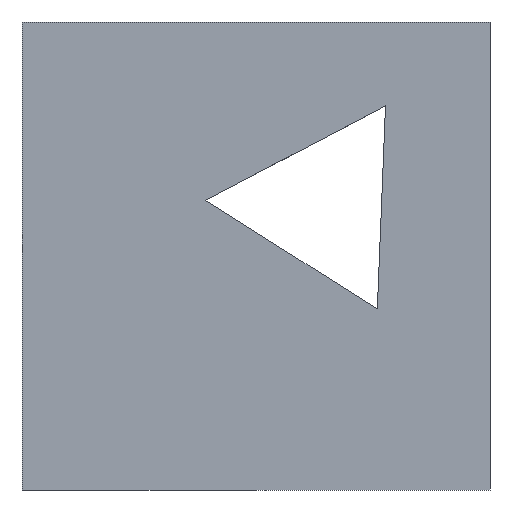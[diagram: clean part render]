
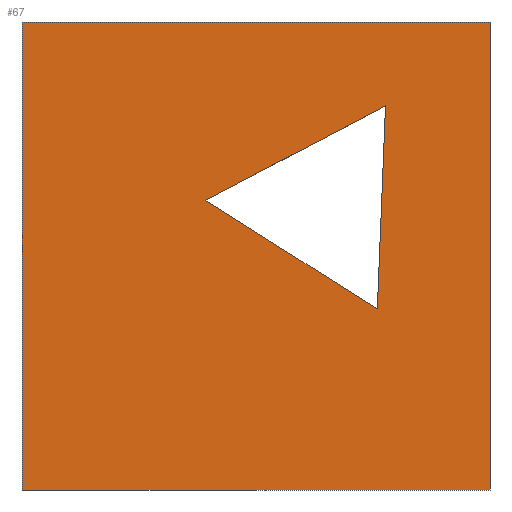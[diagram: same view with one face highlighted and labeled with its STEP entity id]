
A CAD part, left-side view. The second image highlights one B-rep face of the part: STEP entity #67.
In plain terms, the highlighted planar face has unit normal (-1, 0, 0).
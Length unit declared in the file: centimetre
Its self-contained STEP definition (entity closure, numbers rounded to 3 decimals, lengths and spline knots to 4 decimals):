
#1 = VECTOR ( 'NONE', #542, 100. ) ;
#9 = EDGE_LOOP ( 'NONE', ( #305, #604, #452 ) ) ;
#10 = DIRECTION ( 'NONE',  ( 0., -1., 0. ) ) ;
#23 = VECTOR ( 'NONE', #10, 100. ) ;
#25 = CARTESIAN_POINT ( 'NONE',  ( 0., 223.2785, 820.788 ) ) ;
#38 = CARTESIAN_POINT ( 'NONE',  ( 0., 1000., 1000. ) ) ;
#40 = DIRECTION ( 'NONE',  ( 0., -1., 0. ) ) ;
#55 = CARTESIAN_POINT ( 'NONE',  ( 0., 1000., 1000. ) ) ;
#59 = VECTOR ( 'NONE', #217, 100. ) ;
#67 = ADVANCED_FACE ( 'NONE', ( #514, #607 ), #505, .F. ) ;
#70 = VERTEX_POINT ( 'NONE', #25 ) ;
#72 = CARTESIAN_POINT ( 'NONE',  ( 0., 0., 1000. ) ) ;
#82 = CARTESIAN_POINT ( 'NONE',  ( 0., 1000., 0. ) ) ;
#83 = DIRECTION ( 'NONE',  ( 0., 0., -1. ) ) ;
#94 = EDGE_CURVE ( 'NONE', #308, #361, #314, .T. ) ;
#109 = AXIS2_PLACEMENT_3D ( 'NONE', #456, #368, #83 ) ;
#110 = EDGE_LOOP ( 'NONE', ( #405, #352, #307, #437 ) ) ;
#132 = VECTOR ( 'NONE', #250, 100. ) ;
#164 = LINE ( 'NONE', #534, #132 ) ;
#183 = VECTOR ( 'NONE', #362, 100. ) ;
#199 = CARTESIAN_POINT ( 'NONE',  ( 0., 1000., 1000. ) ) ;
#217 = DIRECTION ( 'NONE',  ( 0., -0.885, 0.465 ) ) ;
#250 = DIRECTION ( 'NONE',  ( 0., 0.845, 0.534 ) ) ;
#257 = LINE ( 'NONE', #579, #1 ) ;
#263 = LINE ( 'NONE', #457, #59 ) ;
#264 = EDGE_CURVE ( 'NONE', #346, #70, #263, .T. ) ;
#301 = LINE ( 'NONE', #199, #23 ) ;
#305 = ORIENTED_EDGE ( 'NONE', *, *, #264, .T. ) ;
#307 = ORIENTED_EDGE ( 'NONE', *, *, #478, .F. ) ;
#308 = VERTEX_POINT ( 'NONE', #427 ) ;
#314 = LINE ( 'NONE', #72, #183 ) ;
#326 = LINE ( 'NONE', #82, #573 ) ;
#346 = VERTEX_POINT ( 'NONE', #539 ) ;
#352 = ORIENTED_EDGE ( 'NONE', *, *, #94, .F. ) ;
#361 = VERTEX_POINT ( 'NONE', #438 ) ;
#362 = DIRECTION ( 'NONE',  ( 0., 0., -1. ) ) ;
#367 = LINE ( 'NONE', #38, #466 ) ;
#368 = DIRECTION ( 'NONE',  ( 1., 0., 0. ) ) ;
#405 = ORIENTED_EDGE ( 'NONE', *, *, #565, .T. ) ;
#415 = EDGE_CURVE ( 'NONE', #592, #346, #164, .T. ) ;
#421 = DIRECTION ( 'NONE',  ( 0., 0., -1. ) ) ;
#427 = CARTESIAN_POINT ( 'NONE',  ( 0., 0., 1000. ) ) ;
#433 = VERTEX_POINT ( 'NONE', #591 ) ;
#437 = ORIENTED_EDGE ( 'NONE', *, *, #588, .T. ) ;
#438 = CARTESIAN_POINT ( 'NONE',  ( 0., 0., 0. ) ) ;
#452 = ORIENTED_EDGE ( 'NONE', *, *, #415, .T. ) ;
#453 = EDGE_CURVE ( 'NONE', #70, #592, #257, .T. ) ;
#456 = CARTESIAN_POINT ( 'NONE',  ( 0., 1000., 1000. ) ) ;
#457 = CARTESIAN_POINT ( 'NONE',  ( 0., 223.2785, 820.788 ) ) ;
#466 = VECTOR ( 'NONE', #421, 100. ) ;
#478 = EDGE_CURVE ( 'NONE', #498, #308, #301, .T. ) ;
#498 = VERTEX_POINT ( 'NONE', #55 ) ;
#505 = PLANE ( 'NONE',  #109 ) ;
#514 = FACE_BOUND ( 'NONE', #9, .T. ) ;
#534 = CARTESIAN_POINT ( 'NONE',  ( 0., 607.8724, 618.8741 ) ) ;
#539 = CARTESIAN_POINT ( 'NONE',  ( 0., 607.8724, 618.8741 ) ) ;
#542 = DIRECTION ( 'NONE',  ( 0., 0.04, -0.999 ) ) ;
#565 = EDGE_CURVE ( 'NONE', #433, #361, #326, .T. ) ;
#573 = VECTOR ( 'NONE', #40, 100. ) ;
#579 = CARTESIAN_POINT ( 'NONE',  ( 0., 240.7129, 386.763 ) ) ;
#588 = EDGE_CURVE ( 'NONE', #498, #433, #367, .T. ) ;
#591 = CARTESIAN_POINT ( 'NONE',  ( 0., 1000., 0. ) ) ;
#592 = VERTEX_POINT ( 'NONE', #613 ) ;
#604 = ORIENTED_EDGE ( 'NONE', *, *, #453, .T. ) ;
#607 = FACE_OUTER_BOUND ( 'NONE', #110, .T. ) ;
#613 = CARTESIAN_POINT ( 'NONE',  ( 0., 240.7129, 386.763 ) ) ;
